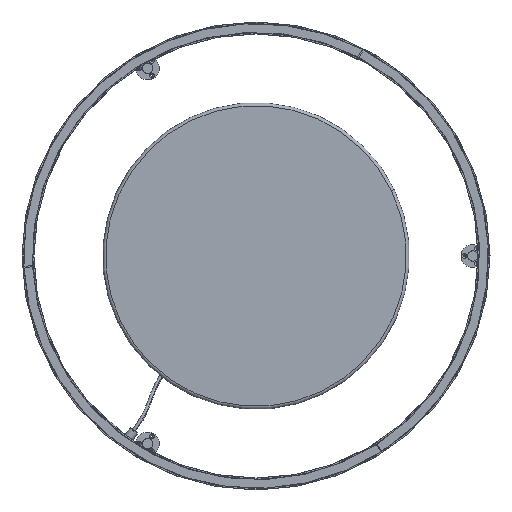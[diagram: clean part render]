
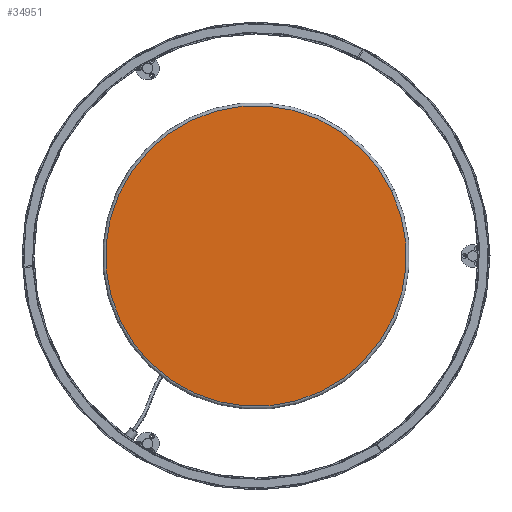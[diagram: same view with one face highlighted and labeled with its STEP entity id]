
A CAD part, front view. The second image highlights one B-rep face of the part: STEP entity #34951.
In plain terms, the highlighted planar face has unit normal (0, -1, 0).
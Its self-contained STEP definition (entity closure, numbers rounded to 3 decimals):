
#6 = FACE_OUTER_BOUND ( 'NONE', #64561, .T. ) ;
#1144 = CARTESIAN_POINT ( 'NONE',  ( 0., -1., 0. ) ) ;
#6744 = DIRECTION ( 'NONE',  ( 0., 0., 1. ) ) ;
#8583 = AXIS2_PLACEMENT_3D ( 'NONE', #130609, #120824, #109649 ) ;
#9074 = AXIS2_PLACEMENT_3D ( 'NONE', #50035, #39552, #6744 ) ;
#34855 = PLANE ( 'NONE',  #8583 ) ;
#34951 = ADVANCED_FACE ( 'NONE', ( #6 ), #34855, .F. ) ;
#39552 = DIRECTION ( 'NONE',  ( 0., 1., 0. ) ) ;
#49829 = VERTEX_POINT ( 'NONE', #74141 ) ;
#50035 = CARTESIAN_POINT ( 'NONE',  ( 0., -1., 0. ) ) ;
#50719 = CARTESIAN_POINT ( 'NONE',  ( 0., -1., 289.1 ) ) ;
#57712 = EDGE_CURVE ( 'NONE', #49829, #123381, #134088, .T. ) ;
#64561 = EDGE_LOOP ( 'NONE', ( #101508, #96368 ) ) ;
#66761 = DIRECTION ( 'NONE',  ( 0., 0., 1. ) ) ;
#74141 = CARTESIAN_POINT ( 'NONE',  ( 0., -1., -289.1 ) ) ;
#75907 = DIRECTION ( 'NONE',  ( 0., 1., 0. ) ) ;
#96368 = ORIENTED_EDGE ( 'NONE', *, *, #57712, .F. ) ;
#101508 = ORIENTED_EDGE ( 'NONE', *, *, #106709, .F. ) ;
#106709 = EDGE_CURVE ( 'NONE', #123381, #49829, #117922, .T. ) ;
#109649 = DIRECTION ( 'NONE',  ( 0., 0., 1. ) ) ;
#117922 = CIRCLE ( 'NONE', #131288, 289.1 ) ;
#120824 = DIRECTION ( 'NONE',  ( 0., 1., 0. ) ) ;
#123381 = VERTEX_POINT ( 'NONE', #50719 ) ;
#130609 = CARTESIAN_POINT ( 'NONE',  ( 0., -1., 0. ) ) ;
#131288 = AXIS2_PLACEMENT_3D ( 'NONE', #1144, #75907, #66761 ) ;
#134088 = CIRCLE ( 'NONE', #9074, 289.1 ) ;
